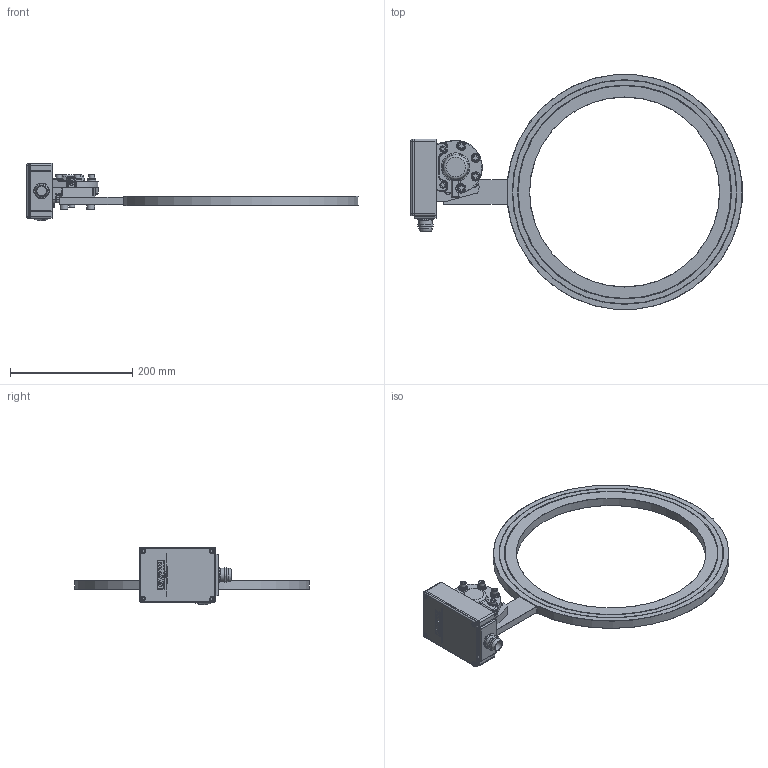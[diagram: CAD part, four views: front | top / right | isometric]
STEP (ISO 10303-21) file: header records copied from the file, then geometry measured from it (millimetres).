
FILE_DESCRIPTION(/* description */ ('Alibre Inc.'),/* implementation_level */ '2;1');
FILE_NAME(/* name */ 'export0',/* time_stamp */ '2012-10-19T13:19:07+02:00',/* author */ (''),/* organization */ (''),/* preprocessor_version */ 'ST-DEVELOPER v14',/* originating_system */ 'Alibre',/* authorisation */ '');
FILE_SCHEMA (('CONFIG_CONTROL_DESIGN'));
Length unit declared in the file: centimetre
Products named in the file (12): ID_1; ID_2; ID_3; ID_4; ID_5; ID_6; ID_7; ID_8; ID_9
Bounding box: 542.32 x 383.85 x 93.66 mm (x, y, z)
Volume: 928042.1 mm3; surface area: 273981.7 mm2
Topology: 21 solids, 21 shells, 1085 faces, 2568 edges, 1593 vertices
Faces by surface type: plane 538, cylinder 231, bspline 162, cone 76, torus 70, sphere 8
Full cylindrical faces by diameter (mm): 3.9 x2, 5 x22, 5.5 x1, 5.541 x2, 6 x14, 6.038 x2, 6.5 x6, 8 x9, 8.5 x2, 9.6 x6, 10 x11, 10.5 x1, 12 x3, 13 x2, 14 x3, 16 x1, 17.966 x1, 19.5 x1, 22 x2, 22.5 x4, 29 x1, 31 x1, 310 x1, 348 x2, 349 x2, 366 x2, 367 x2
Entity records: 34338 total; most frequent: CARTESIAN_POINT 14030, ORIENTED_EDGE 3988, DIRECTION 3168, EDGE_CURVE 1994, VERTEX_POINT 1333, AXIS2_PLACEMENT_3D 1279, EDGE_LOOP 1159, FACE_BOUND 1159
